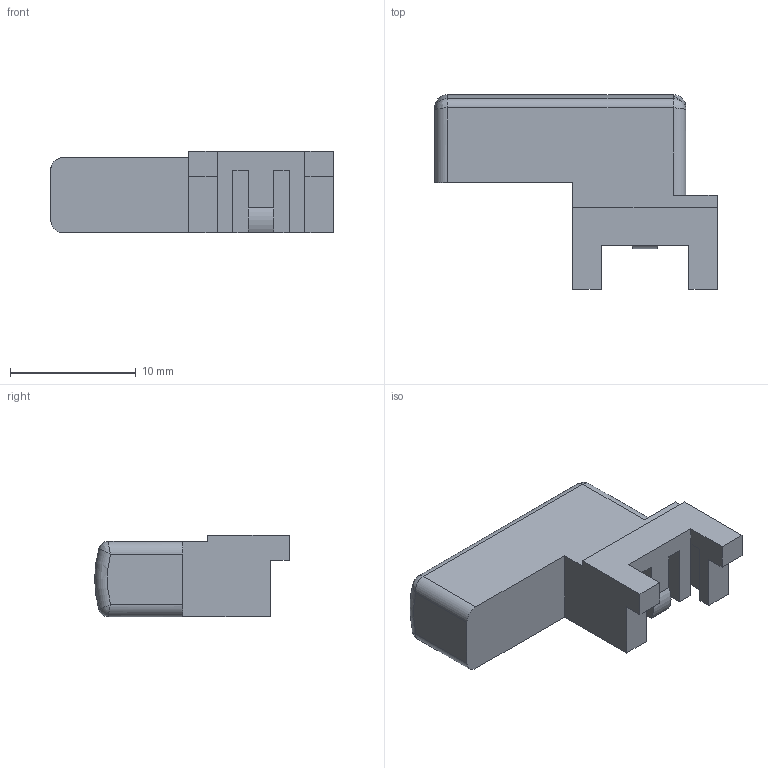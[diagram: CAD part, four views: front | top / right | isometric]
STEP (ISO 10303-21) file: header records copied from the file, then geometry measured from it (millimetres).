
FILE_DESCRIPTION(/* description */ (''),/* implementation_level */ '2;1');
FILE_NAME(/* name */ 'D:/Perk/Desktop/Floppy Button/Checkmate A600 Button - No Taper v4.step',/* time_stamp */ '2019-10-24T13:43:58+01:00',/* author */ (''),/* organization */ (''),/* preprocessor_version */ 'ST-DEVELOPER v18',/* originating_system */ 'Autodesk Translation Framework v8.6.0.1094',/* authorisation */ '');
FILE_SCHEMA (('AUTOMOTIVE_DESIGN { 1 0 10303 214 3 1 1 }'));
Length unit declared in the file: millimetre
Products named in the file (1): Checkmate  A600 Button - No Taper
Bounding box: 22.5 x 15.5 x 6.5 mm (x, y, z)
Volume: 1159.5 mm3; surface area: 991.2 mm2
Topology: 1 solids, 1 shells, 52 faces, 137 edges, 83 vertices
Faces by surface type: plane 38, cylinder 8, bspline 4, torus 2
Entity records: 1752 total; most frequent: CARTESIAN_POINT 481, ORIENTED_EDGE 266, DIRECTION 237, EDGE_CURVE 133, LINE 111, VECTOR 111, VERTEX_POINT 83, AXIS2_PLACEMENT_3D 63
